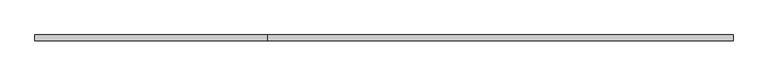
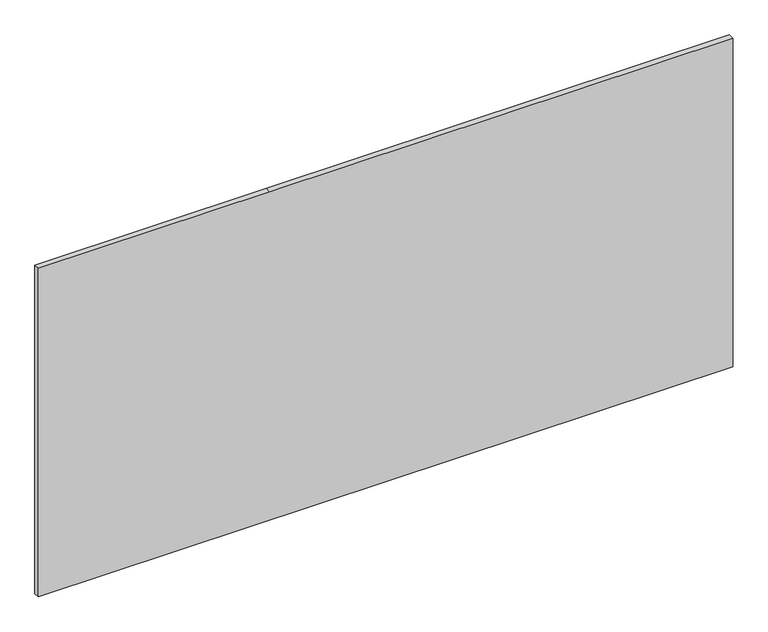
"""IFC4 building model written with IfcOpenShell, lengths in millimetres: plate geometry, 系统嵌板 : 玻璃."""

from ifc_helpers import new_model, si_unit, frame, origin, place, context, project, spatial, polyline, outline, extrude, source, transform, mapped, element, save


def plate_41d8d65b(model_context):
    return source(origin(), model_context, "Body", "SweptSolid", [
        extrude(outline(polyline([(0.0, -1500.0), (0.0, 1500.0), (1500.0, 1500.0), (1500.0, -500.0), (1500.0, -1500.0), (0.0, -1500.0)])), frame((0.0, -12.5, 0.0), z_axis=(0.0, 1.0, 0.0), x_axis=(0.0, 0.0, 1.0)), (0.0, 0.0, 1.0), 25.0),
    ])


if __name__ == "__main__":
    model = new_model("IFC4")
    model_context = context("Model", 3, world=origin())
    ifc_project = project(units=[si_unit("LENGTHUNIT", "METRE", prefix="MILLI")], contexts=[model_context])
    site = spatial("IfcSite", under=ifc_project)
    building = spatial("IfcBuilding", under=site)
    placement = place(None, origin())
    plate_shape = plate_41d8d65b(model_context)
    element("IfcPlate", 1, ObjectType="系统嵌板 : 玻璃", at=placement, inside=building, context=model_context, shape_type="MappedRepresentation", body=[
        mapped(plate_shape, transform((0.0, 0.0, 0.0), x_axis=(1.0, 0.0, 0.0), y_axis=(0.0, 1.0, 0.0), z_axis=(0.0, 0.0, 1.0))),
    ])
    save(model, "model.ifc")
